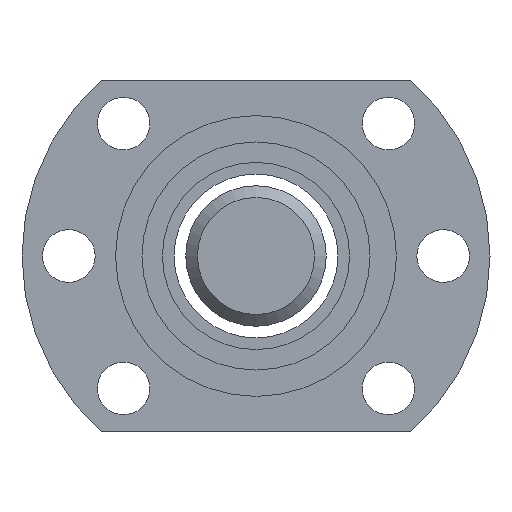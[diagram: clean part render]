
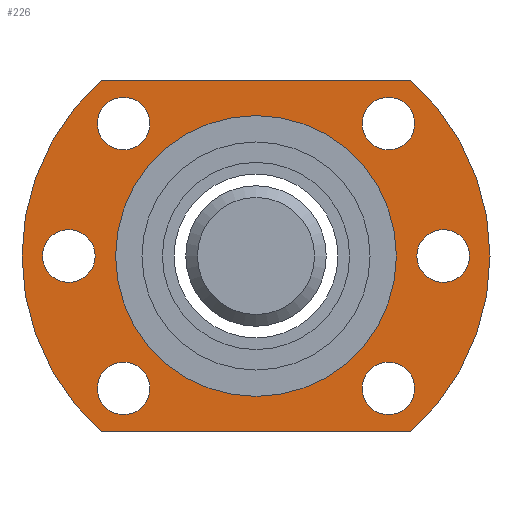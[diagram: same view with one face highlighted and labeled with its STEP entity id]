
A CAD part, left-side view. The second image highlights one B-rep face of the part: STEP entity #226.
In plain terms, the highlighted planar face has unit normal (-1, 0, 0).
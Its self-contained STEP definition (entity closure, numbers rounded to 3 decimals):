
#97=LINE('',#869,#105);
#98=LINE('',#873,#106);
#105=VECTOR('',#736,1.);
#106=VECTOR('',#739,1.);
#183=FACE_BOUND('',#307,.T.);
#184=FACE_BOUND('',#308,.T.);
#185=FACE_BOUND('',#309,.T.);
#186=FACE_BOUND('',#310,.T.);
#187=FACE_BOUND('',#311,.T.);
#188=FACE_BOUND('',#312,.T.);
#189=FACE_BOUND('',#313,.T.);
#190=FACE_BOUND('',#314,.T.);
#226=ADVANCED_FACE('',(#183,#184,#185,#186,#187,#188,#189,#190),#248,.T.);
#248=PLANE('',#611);
#307=EDGE_LOOP('',(#384));
#308=EDGE_LOOP('',(#385));
#309=EDGE_LOOP('',(#386,#387,#388,#389));
#310=EDGE_LOOP('',(#390));
#311=EDGE_LOOP('',(#391));
#312=EDGE_LOOP('',(#392));
#313=EDGE_LOOP('',(#393));
#314=EDGE_LOOP('',(#394));
#384=ORIENTED_EDGE('',*,*,#497,.T.);
#385=ORIENTED_EDGE('',*,*,#486,.F.);
#386=ORIENTED_EDGE('',*,*,#498,.T.);
#387=ORIENTED_EDGE('',*,*,#499,.T.);
#388=ORIENTED_EDGE('',*,*,#500,.T.);
#389=ORIENTED_EDGE('',*,*,#501,.T.);
#390=ORIENTED_EDGE('',*,*,#502,.F.);
#391=ORIENTED_EDGE('',*,*,#503,.F.);
#392=ORIENTED_EDGE('',*,*,#504,.F.);
#393=ORIENTED_EDGE('',*,*,#505,.T.);
#394=ORIENTED_EDGE('',*,*,#506,.T.);
#444=VERTEX_POINT('',#841);
#455=VERTEX_POINT('',#865);
#456=VERTEX_POINT('',#867);
#457=VERTEX_POINT('',#868);
#458=VERTEX_POINT('',#870);
#459=VERTEX_POINT('',#872);
#460=VERTEX_POINT('',#875);
#461=VERTEX_POINT('',#877);
#462=VERTEX_POINT('',#879);
#463=VERTEX_POINT('',#881);
#464=VERTEX_POINT('',#883);
#486=EDGE_CURVE('',#444,#444,#532,.T.);
#497=EDGE_CURVE('',#455,#455,#541,.T.);
#498=EDGE_CURVE('',#456,#457,#542,.T.);
#499=EDGE_CURVE('',#457,#458,#97,.T.);
#500=EDGE_CURVE('',#458,#459,#543,.T.);
#501=EDGE_CURVE('',#459,#456,#98,.T.);
#502=EDGE_CURVE('',#460,#460,#544,.T.);
#503=EDGE_CURVE('',#461,#461,#545,.T.);
#504=EDGE_CURVE('',#462,#462,#546,.T.);
#505=EDGE_CURVE('',#463,#463,#547,.T.);
#506=EDGE_CURVE('',#464,#464,#548,.T.);
#532=CIRCLE('',#592,12.);
#541=CIRCLE('',#603,2.25);
#542=CIRCLE('',#604,20.);
#543=CIRCLE('',#605,20.);
#544=CIRCLE('',#606,2.25);
#545=CIRCLE('',#607,2.25);
#546=CIRCLE('',#608,2.25);
#547=CIRCLE('',#609,2.25);
#548=CIRCLE('',#610,2.25);
#592=AXIS2_PLACEMENT_3D('',#840,#708,#709);
#603=AXIS2_PLACEMENT_3D('',#864,#732,#733);
#604=AXIS2_PLACEMENT_3D('',#866,#734,#735);
#605=AXIS2_PLACEMENT_3D('',#871,#737,#738);
#606=AXIS2_PLACEMENT_3D('',#874,#740,#741);
#607=AXIS2_PLACEMENT_3D('',#876,#742,#743);
#608=AXIS2_PLACEMENT_3D('',#878,#744,#745);
#609=AXIS2_PLACEMENT_3D('',#880,#746,#747);
#610=AXIS2_PLACEMENT_3D('',#882,#748,#749);
#611=AXIS2_PLACEMENT_3D('',#884,#750,#751);
#708=DIRECTION('',(-1.,0.,0.));
#709=DIRECTION('',(0.,0.,-1.));
#732=DIRECTION('',(1.,0.,0.));
#733=DIRECTION('',(0.,0.,1.));
#734=DIRECTION('',(-1.,0.,0.));
#735=DIRECTION('',(0.,0.,-1.));
#736=DIRECTION('',(0.,-1.,0.));
#737=DIRECTION('',(-1.,0.,0.));
#738=DIRECTION('',(0.,0.,-1.));
#739=DIRECTION('',(0.,1.,0.));
#740=DIRECTION('',(-1.,0.,0.));
#741=DIRECTION('',(0.,0.,1.));
#742=DIRECTION('',(-1.,0.,0.));
#743=DIRECTION('',(0.,0.,1.));
#744=DIRECTION('',(-1.,0.,0.));
#745=DIRECTION('',(0.,0.,1.));
#746=DIRECTION('',(1.,0.,0.));
#747=DIRECTION('',(0.,0.,1.));
#748=DIRECTION('',(1.,0.,0.));
#749=DIRECTION('',(0.,0.,1.));
#750=DIRECTION('',(-1.,0.,0.));
#751=DIRECTION('',(0.,0.,-1.));
#840=CARTESIAN_POINT('',(-68.892,-68.867,-23.275));
#841=CARTESIAN_POINT('',(-68.892,-68.867,-35.275));
#864=CARTESIAN_POINT('',(-68.892,-84.867,-23.275));
#865=CARTESIAN_POINT('',(-68.892,-84.867,-21.025));
#866=CARTESIAN_POINT('',(-68.892,-68.867,-23.275));
#867=CARTESIAN_POINT('',(-68.892,-55.639,-8.275));
#868=CARTESIAN_POINT('',(-68.892,-55.639,-38.275));
#869=CARTESIAN_POINT('',(-68.892,-55.639,-38.275));
#870=CARTESIAN_POINT('',(-68.892,-82.096,-38.275));
#871=CARTESIAN_POINT('',(-68.892,-68.867,-23.275));
#872=CARTESIAN_POINT('',(-68.892,-82.096,-8.275));
#873=CARTESIAN_POINT('',(-68.892,-82.096,-8.275));
#874=CARTESIAN_POINT('',(-68.892,-52.867,-23.275));
#875=CARTESIAN_POINT('',(-68.892,-52.867,-21.025));
#876=CARTESIAN_POINT('',(-68.892,-57.554,-11.961));
#877=CARTESIAN_POINT('',(-68.892,-57.554,-9.711));
#878=CARTESIAN_POINT('',(-68.892,-57.554,-34.589));
#879=CARTESIAN_POINT('',(-68.892,-57.554,-32.339));
#880=CARTESIAN_POINT('',(-68.892,-80.181,-34.589));
#881=CARTESIAN_POINT('',(-68.892,-80.181,-32.339));
#882=CARTESIAN_POINT('',(-68.892,-80.181,-11.961));
#883=CARTESIAN_POINT('',(-68.892,-80.181,-9.711));
#884=CARTESIAN_POINT('',(-68.892,-68.867,-23.275));
